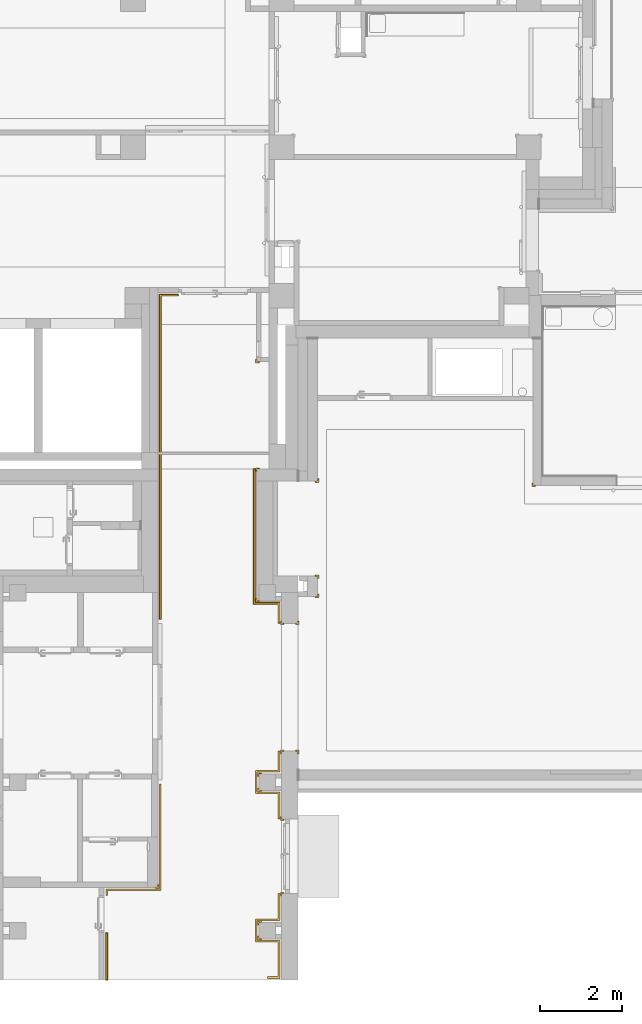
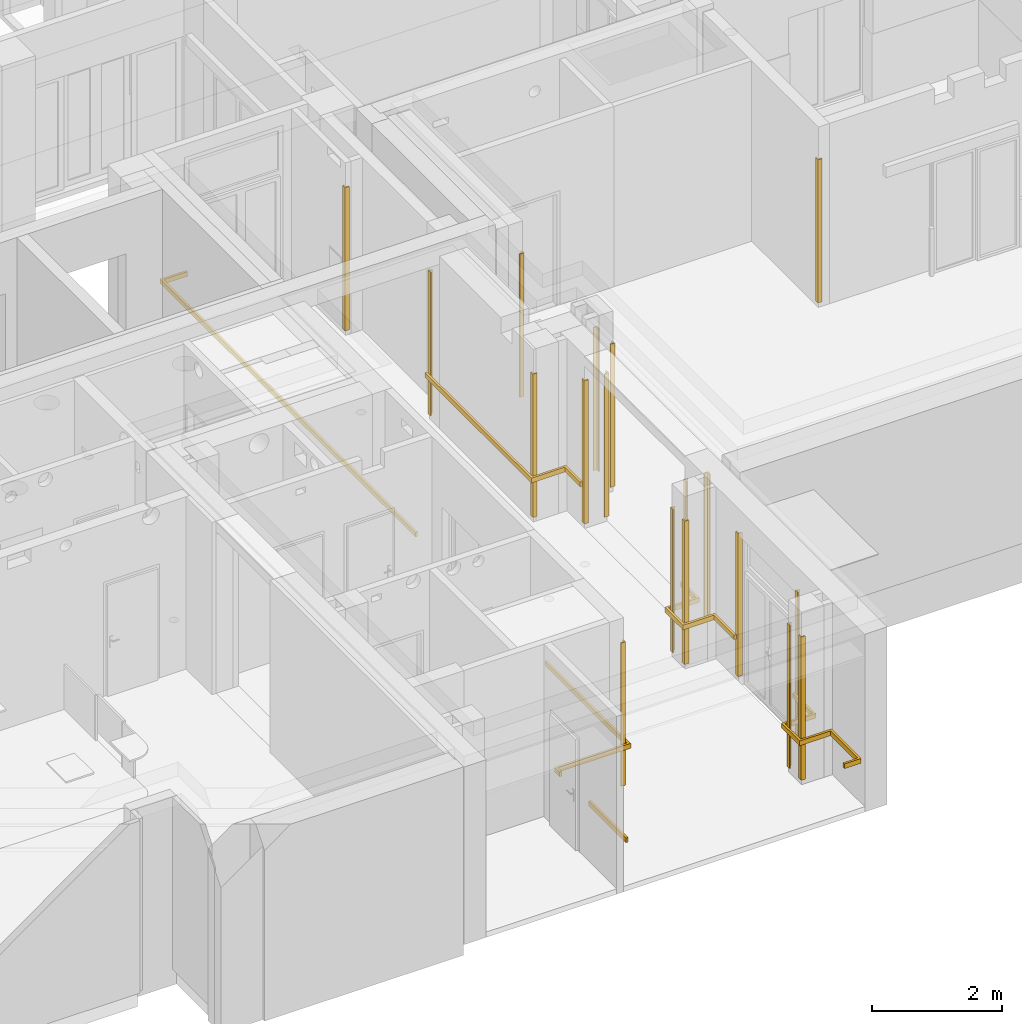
# One storey, part 132 of 140: 24 railings.
"""IFC4 building model written with IfcOpenShell, lengths in metres."""

from ifc_helpers import new_model, entity, si_unit, converted_unit, derived_unit, frame, origin, place, context, subcontext, project, spatial, faceted_brep, element, save


model = new_model("IFC4")

# Units and contexts
model_context = context("Model", 3, precision=1e-05, world=origin())
body_context = subcontext(model_context, "Body", "Model", "MODEL_VIEW")
ifc_project = project(units=[si_unit("LENGTHUNIT", "METRE"), si_unit("AREAUNIT", "SQUARE_METRE"), si_unit("VOLUMEUNIT", "CUBIC_METRE"), si_unit("MASSUNIT", "GRAM", prefix="KILO"), converted_unit("PLANEANGLEUNIT", "DEGREE", entity("IfcPlaneAngleMeasure", 0.0174532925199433), si_unit("PLANEANGLEUNIT", "RADIAN"), dimensions=[0, 0, 0, 0, 0, 0, 0]), derived_unit("THERMALTRANSMITTANCEUNIT", [(si_unit("POWERUNIT", "WATT"), 1), (si_unit("THERMODYNAMICTEMPERATUREUNIT", "KELVIN"), -1), (si_unit("LENGTHUNIT", "METRE"), -2)]), derived_unit("VOLUMETRICFLOWRATEUNIT", [(si_unit("LENGTHUNIT", "METRE"), 3), (converted_unit("TIMEUNIT", "hour", entity("IfcTimeMeasure", 3600.0), si_unit("TIMEUNIT", "SECOND"), dimensions=[0, 0, 1, 0, 0, 0, 0]), -1), (si_unit("LENGTHUNIT", "METRE"), -1)])], contexts=[model_context])

# Site, building, storey
site_placement = place(None, origin())
site = spatial("IfcSite", under=ifc_project, at=site_placement, Name="3. ASŘ", CompositionType="ELEMENT")
building_placement = place(site_placement, origin())
building = spatial("IfcBuilding", under=site, at=building_placement, Name="Pavilon C", CompositionType="ELEMENT")
storey_placement = place(building_placement, origin())
storey = spatial("IfcBuildingStorey", under=building, at=storey_placement, Name="Půdorys 1.NP", CompositionType="ELEMENT", Elevation=0.0)

# Railings
railing_1_placement = place(storey_placement, frame((50.03, -4.62, 0.1)))
element("IfcRailing", 1, at=railing_1_placement, inside=storey, Name="OCHRANA ROHŮ", PredefinedType="USERDEFINED", context=body_context, shape_type="Brep", body=[
    faceted_brep([(0.076, 0.0, 2.7), (0.076, 0.02, 2.7), (0.076, 0.02, 4.54747350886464e-16), (0.076, 0.0, 0.0), (0.0, 0.0, 2.7), (0.0, 0.076, 2.7), (0.02, 0.076, 2.7), (0.02, 0.02, 2.7), (0.02, 0.02, 4.54747350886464e-16), (0.02, 0.076, 4.54747350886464e-16), (0.0, 0.076, 0.0), (0.0, 0.0, 0.0)], [[[0, 1, 2, 3]], [[0, 4, 5, 6, 7, 1]], [[1, 7, 8, 2]], [[2, 8, 9, 10, 11, 3]], [[3, 11, 4, 0]], [[5, 10, 9, 6]], [[7, 6, 9, 8]], [[11, 10, 5, 4]]], orient=[[False], [False], [False], [False], [False], [False], [False], [False]]),
])
for number, where in (
    (2, (44.774, -4.52000000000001, 0.1)),
    (3, (44.774, -7.32000000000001, 0.1)),
    (4, (44.294, -7.97000000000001, 0.1)),
):
    element("IfcRailing", number, at=place(storey_placement, frame(where)), inside=storey, Name="OCHRANA ROHŮ", PredefinedType="USERDEFINED", context=body_context, shape_type="Brep", body=[
        faceted_brep([(0.076, 0.076, 2.7), (0.056, 0.076, 2.7), (0.056, 0.076, 4.54747350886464e-16), (0.076, 0.076, 0.0), (0.076, 0.0, 2.7), (0.0, 0.0, 2.7), (0.0, 0.02, 2.7), (0.056, 0.02, 2.7), (0.056, 0.02, 4.54747350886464e-16), (0.0, 0.02, 4.54747350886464e-16), (0.0, 0.0, 0.0), (0.076, 0.0, 0.0)], [[[0, 1, 2, 3]], [[0, 4, 5, 6, 7, 1]], [[1, 7, 8, 2]], [[2, 8, 9, 10, 11, 3]], [[3, 11, 4, 0]], [[5, 10, 9, 6]], [[7, 6, 9, 8]], [[11, 10, 5, 4]]], orient=[[False], [False], [False], [False], [False], [False], [False], [False]]),
    ])
railing_2_placement = place(storey_placement, frame((43.93, -7.97, 0.1)))
element("IfcRailing", 5, at=railing_2_placement, inside=storey, Name="OCHRANA ROHŮ", PredefinedType="USERDEFINED", context=body_context, shape_type="Brep", body=[
    faceted_brep([(0.076, 0.0, 2.7), (0.076, 0.02, 2.7), (0.076, 0.02, 4.54747350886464e-16), (0.076, 0.0, 0.0), (0.0, 0.0, 2.7), (0.0, 0.076, 2.7), (0.02, 0.076, 2.7), (0.02, 0.02, 2.7), (0.02, 0.02, 4.54747350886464e-16), (0.02, 0.076, 4.54747350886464e-16), (0.0, 0.076, 0.0), (0.0, 0.0, 0.0)], [[[0, 1, 2, 3]], [[0, 4, 5, 6, 7, 1]], [[1, 7, 8, 2]], [[2, 8, 9, 10, 11, 3]], [[3, 11, 4, 0]], [[5, 10, 9, 6]], [[7, 6, 9, 8]], [[11, 10, 5, 4]]], orient=[[False], [False], [False], [False], [False], [False], [False], [False]]),
])
railing_3_placement = place(storey_placement, frame((43.93, -11.106, 0.1)))
element("IfcRailing", 6, at=railing_3_placement, inside=storey, Name="OCHRANA ROHŮ", PredefinedType="USERDEFINED", context=body_context, shape_type="Brep", body=[
    faceted_brep([(0.0, 0.0, 2.7), (0.02, 0.0, 2.7), (0.02, 0.0, 4.54747350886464e-16), (0.0, 0.0, 0.0), (0.0, 0.076, 2.7), (0.076, 0.076, 2.7), (0.076, 0.056, 2.7), (0.02, 0.056, 2.7), (0.02, 0.056, 4.54747350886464e-16), (0.076, 0.056, 4.54747350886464e-16), (0.076, 0.076, 0.0), (0.0, 0.076, 0.0)], [[[0, 1, 2, 3]], [[0, 4, 5, 6, 7, 1]], [[1, 7, 8, 2]], [[2, 8, 9, 10, 11, 3]], [[3, 11, 4, 0]], [[5, 10, 9, 6]], [[7, 6, 9, 8]], [[11, 10, 5, 4]]], orient=[[False], [False], [False], [False], [False], [False], [False], [False]]),
])
for number, where in (
    (7, (44.294, -11.106, 0.1)),
    (8, (44.774, -6.856, 0.1)),
):
    element("IfcRailing", number, at=place(storey_placement, frame(where)), inside=storey, Name="OCHRANA ROHŮ", PredefinedType="USERDEFINED", context=body_context, shape_type="Brep", body=[
        faceted_brep([(0.0, 0.076, 2.7), (0.0, 0.056, 2.7), (0.0, 0.056, 4.54747350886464e-16), (0.0, 0.076, 0.0), (0.076, 0.076, 2.7), (0.076, 0.0, 2.7), (0.056, 0.0, 2.7), (0.056, 0.056, 2.7), (0.056, 0.056, 4.54747350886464e-16), (0.056, 0.0, 4.54747350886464e-16), (0.076, 0.0, 0.0), (0.076, 0.076, 0.0)], [[[0, 1, 2, 3]], [[0, 4, 5, 6, 7, 1]], [[1, 7, 8, 2]], [[2, 8, 9, 10, 11, 3]], [[3, 11, 4, 0]], [[5, 10, 9, 6]], [[7, 6, 9, 8]], [[11, 10, 5, 4]]], orient=[[False], [False], [False], [False], [False], [False], [False], [False]]),
    ])
railing_4_placement = place(storey_placement, frame((43.33, -7.42, 0.1)))
element("IfcRailing", 9, at=railing_4_placement, inside=storey, Name="OCHRANA ROHŮ", PredefinedType="USERDEFINED", context=body_context, shape_type="Brep", body=[
    faceted_brep([(0.076, 0.0, 2.7), (0.076, 0.02, 2.7), (0.076, 0.02, 4.54747350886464e-16), (0.076, 0.0, 0.0), (0.0, 0.0, 2.7), (0.0, 0.076, 2.7), (0.02, 0.076, 2.7), (0.02, 0.02, 2.7), (0.02, 0.02, 4.54747350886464e-16), (0.02, 0.076, 4.54747350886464e-16), (0.0, 0.076, 0.0), (0.0, 0.0, 0.0)], [[[0, 1, 2, 3]], [[0, 4, 5, 6, 7, 1]], [[1, 7, 8, 2]], [[2, 8, 9, 10, 11, 3]], [[3, 11, 4, 0]], [[5, 10, 9, 6]], [[7, 6, 9, 8]], [[11, 10, 5, 4]]], orient=[[False], [False], [False], [False], [False], [False], [False], [False]]),
])
for number, where in (
    (10, (43.33, -4.256, 0.1)),
    (11, (43.38, -11.656, 0.1)),
    (12, (43.38, -15.256, 0.1)),
):
    element("IfcRailing", number, at=place(storey_placement, frame(where)), inside=storey, Name="OCHRANA ROHŮ", PredefinedType="USERDEFINED", context=body_context, shape_type="Brep", body=[
        faceted_brep([(0.0, 0.0, 2.7), (0.02, 0.0, 2.7), (0.02, 0.0, 4.54747350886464e-16), (0.0, 0.0, 0.0), (0.0, 0.076, 2.7), (0.076, 0.076, 2.7), (0.076, 0.056, 2.7), (0.02, 0.056, 2.7), (0.02, 0.056, 4.54747350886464e-16), (0.076, 0.056, 4.54747350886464e-16), (0.076, 0.076, 0.0), (0.0, 0.076, 0.0)], [[[0, 1, 2, 3]], [[0, 4, 5, 6, 7, 1]], [[1, 7, 8, 2]], [[2, 8, 9, 10, 11, 3]], [[3, 11, 4, 0]], [[5, 10, 9, 6]], [[7, 6, 9, 8]], [[11, 10, 5, 4]]], orient=[[False], [False], [False], [False], [False], [False], [False], [False]]),
    ])
for number, where in (
    (13, (43.38, -15.62, 0.1)),
    (14, (43.38, -12.02, 0.1)),
):
    element("IfcRailing", number, at=place(storey_placement, frame(where)), inside=storey, Name="OCHRANA ROHŮ", PredefinedType="USERDEFINED", context=body_context, shape_type="Brep", body=[
        faceted_brep([(0.076, 0.0, 2.7), (0.076, 0.02, 2.7), (0.076, 0.02, 4.54747350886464e-16), (0.076, 0.0, 0.0), (0.0, 0.0, 2.7), (0.0, 0.076, 2.7), (0.02, 0.076, 2.7), (0.02, 0.02, 2.7), (0.02, 0.02, 4.54747350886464e-16), (0.02, 0.076, 4.54747350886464e-16), (0.0, 0.076, 0.0), (0.0, 0.0, 0.0)], [[[0, 1, 2, 3]], [[0, 4, 5, 6, 7, 1]], [[1, 7, 8, 2]], [[2, 8, 9, 10, 11, 3]], [[3, 11, 4, 0]], [[5, 10, 9, 6]], [[7, 6, 9, 8]], [[11, 10, 5, 4]]], orient=[[False], [False], [False], [False], [False], [False], [False], [False]]),
    ])
railing_5_placement = place(storey_placement, frame((40.894, -14.3700000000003, 0.1)))
element("IfcRailing", 15, at=railing_5_placement, inside=storey, Name="OCHRANA ROHŮ", PredefinedType="USERDEFINED", context=body_context, shape_type="Brep", body=[
    faceted_brep([(0.076, 0.076, 2.7), (0.056, 0.076, 2.7), (0.056, 0.076, 4.54747350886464e-16), (0.076, 0.076, 0.0), (0.076, 0.0, 2.7), (0.0, 0.0, 2.7), (0.0, 0.02, 2.7), (0.056, 0.02, 2.7), (0.056, 0.02, 4.54747350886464e-16), (0.0, 0.02, 4.54747350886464e-16), (0.0, 0.0, 0.0), (0.076, 0.0, 0.0)], [[[0, 1, 2, 3]], [[0, 4, 5, 6, 7, 1]], [[1, 7, 8, 2]], [[2, 8, 9, 10, 11, 3]], [[3, 11, 4, 0]], [[5, 10, 9, 6]], [[7, 6, 9, 8]], [[11, 10, 5, 4]]], orient=[[False], [False], [False], [False], [False], [False], [False], [False]]),
])
railing_6_placement = place(storey_placement, frame((40.99, -7.85000000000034, 0.81)))
element("IfcRailing", 16, at=railing_6_placement, inside=storey, Name="NÁRAZOVÉ MADLO", PredefinedType="USERDEFINED", context=body_context, shape_type="Brep", body=[
    faceted_brep([(0.46, 7.84500000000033, 0.09), (0.46, 7.88500000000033, 0.09), (0.46, 7.88500000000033, 0.0), (0.46, 7.84500000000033, 0.0), (0.04, 7.84500000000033, 0.09), (0.04, 0.0, 0.09), (0.0, 0.0, 0.09), (0.0, 7.88500000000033, 0.09), (0.0, 7.88500000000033, 0.0), (0.0, 0.0, 0.0), (0.04, 0.0, 0.0), (0.04, 7.84500000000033, 0.0)], [[[0, 1, 2, 3]], [[0, 4, 5, 6, 7, 1]], [[1, 7, 8, 2]], [[2, 8, 9, 10, 11, 3]], [[3, 11, 4, 0]], [[5, 10, 9, 6]], [[7, 6, 9, 8]], [[11, 10, 5, 4]]], orient=[[False], [False], [False], [False], [False], [False], [False], [False]]),
])
railing_7_placement = place(storey_placement, frame((39.69, -14.5500000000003, 0.81)))
element("IfcRailing", 17, at=railing_7_placement, inside=storey, Name="NÁRAZOVÉ MADLO", PredefinedType="USERDEFINED", context=body_context, shape_type="Brep", body=[
    faceted_brep([(1.34, 2.7, 0.09), (1.3, 2.7, 0.09), (1.3, 2.7, 0.0), (1.34, 2.7, 0.0), (1.34, 0.119999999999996, 0.09), (0.04, 0.119999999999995, 0.09), (0.04, -1.81898940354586e-15, 0.09), (0.0, -1.81898940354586e-15, 0.09), (0.0, 0.159999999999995, 0.09), (1.3, 0.159999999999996, 0.09), (1.3, 0.159999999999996, 0.0), (0.0, 0.159999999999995, 0.0), (0.0, -1.81898940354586e-15, 0.0), (0.04, -1.81898940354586e-15, 0.0), (0.04, 0.119999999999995, 0.0), (1.34, 0.119999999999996, 0.0)], [[[0, 1, 2, 3]], [[0, 4, 5, 6, 7, 8, 9, 1]], [[1, 9, 10, 2]], [[2, 10, 11, 12, 13, 14, 15, 3]], [[3, 15, 4, 0]], [[9, 8, 11, 10]], [[15, 14, 5, 4]], [[6, 13, 12, 7]], [[8, 7, 12, 11]], [[14, 13, 6, 5]]], orient=[[False], [False], [False], [False], [False], [False], [False], [False], [False], [False]]),
])
railing_8_placement = place(storey_placement, frame((39.69, -16.6, 0.81)))
element("IfcRailing", 18, at=railing_8_placement, inside=storey, Name="NÁRAZOVÉ MADLO", PredefinedType="USERDEFINED", context=body_context, shape_type="Brep", body=[
    faceted_brep([(0.04, 1.14999999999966, 0.09), (0.0, 1.14999999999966, 0.09), (0.0, 1.14999999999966, 0.0), (0.04, 1.14999999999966, 0.0), (0.04, 0.0, 0.09), (0.04, 0.0, 0.0), (0.0, 0.0, 0.0), (0.0, 0.0, 0.09)], [[[0, 1, 2, 3]], [[4, 5, 6, 7]], [[0, 4, 7, 1]], [[1, 7, 6, 2]], [[2, 6, 5, 3]], [[3, 5, 4, 0]]], orient=[[False], [False], [False], [False], [False], [False]]),
])
railing_9_placement = place(storey_placement, frame((43.93, -14.556, 0.1)))
element("IfcRailing", 19, at=railing_9_placement, inside=storey, Name="OCHRANA ROHŮ", PredefinedType="USERDEFINED", context=body_context, shape_type="Brep", body=[
    faceted_brep([(0.0, 0.0, 2.7), (0.02, 0.0, 2.7), (0.02, 0.0, 4.54747350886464e-16), (0.0, 0.0, 0.0), (0.0, 0.076, 2.7), (0.076, 0.076, 2.7), (0.076, 0.056, 2.7), (0.02, 0.056, 2.7), (0.02, 0.056, 4.54747350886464e-16), (0.076, 0.056, 4.54747350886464e-16), (0.076, 0.076, 0.0), (0.0, 0.076, 0.0)], [[[0, 1, 2, 3]], [[0, 4, 5, 6, 7, 1]], [[1, 7, 8, 2]], [[2, 8, 9, 10, 11, 3]], [[3, 11, 4, 0]], [[5, 10, 9, 6]], [[7, 6, 9, 8]], [[11, 10, 5, 4]]], orient=[[False], [False], [False], [False], [False], [False], [False], [False]]),
])
railing_10_placement = place(storey_placement, frame((43.93, -12.72, 0.1)))
element("IfcRailing", 20, at=railing_10_placement, inside=storey, Name="OCHRANA ROHŮ", PredefinedType="USERDEFINED", context=body_context, shape_type="Brep", body=[
    faceted_brep([(0.076, 0.0, 2.7), (0.076, 0.02, 2.7), (0.076, 0.02, 4.54747350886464e-16), (0.076, 0.0, 0.0), (0.0, 0.0, 2.7), (0.0, 0.076, 2.7), (0.02, 0.076, 2.7), (0.02, 0.02, 2.7), (0.02, 0.02, 4.54747350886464e-16), (0.02, 0.076, 4.54747350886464e-16), (0.0, 0.076, 0.0), (0.0, 0.0, 0.0)], [[[0, 1, 2, 3]], [[0, 4, 5, 6, 7, 1]], [[1, 7, 8, 2]], [[2, 8, 9, 10, 11, 3]], [[3, 11, 4, 0]], [[5, 10, 9, 6]], [[7, 6, 9, 8]], [[11, 10, 5, 4]]], orient=[[False], [False], [False], [False], [False], [False], [False], [False]]),
])
railing_11_placement = place(storey_placement, frame((43.32, -16.56, 0.81)))
element("IfcRailing", 21, at=railing_11_placement, inside=storey, Name="NÁRAZOVÉ MADLO", PredefinedType="USERDEFINED", context=body_context, shape_type="Brep", body=[
    faceted_brep([(0.29, 0.04, 0.09), (0.29, 0.0, 0.09), (0.29, 0.0, 0.0), (0.29, 0.04, 0.0), (0.55, 0.04, 0.09), (0.55, 0.880000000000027, 0.09), (0.0, 0.880000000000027, 0.09), (0.0, 1.44000000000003, 0.09), (0.55, 1.44000000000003, 0.09), (0.55, 2.06000000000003, 0.09), (0.59, 2.06000000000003, 0.09), (0.59, 1.40000000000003, 0.09), (0.04, 1.40000000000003, 0.09), (0.04, 0.920000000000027, 0.09), (0.59, 0.920000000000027, 0.09), (0.59, 0.0, 0.09), (0.59, 0.0, 0.0), (0.59, 0.920000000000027, 0.0), (0.04, 0.920000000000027, 0.0), (0.04, 1.40000000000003, 0.0), (0.59, 1.40000000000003, 0.0), (0.59, 2.06000000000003, 0.0), (0.55, 2.06000000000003, 0.0), (0.55, 1.44000000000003, 0.0), (0.0, 1.44000000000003, 0.0), (0.0, 0.880000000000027, 0.0), (0.55, 0.880000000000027, 0.0), (0.55, 0.04, 0.0)], [[[0, 1, 2, 3]], [[0, 4, 5, 6, 7, 8, 9, 10, 11, 12, 13, 14, 15, 1]], [[1, 15, 16, 2]], [[2, 16, 17, 18, 19, 20, 21, 22, 23, 24, 25, 26, 27, 3]], [[3, 27, 4, 0]], [[15, 14, 17, 16]], [[27, 26, 5, 4]], [[14, 13, 18, 17]], [[26, 25, 6, 5]], [[13, 12, 19, 18]], [[25, 24, 7, 6]], [[12, 11, 20, 19]], [[24, 23, 8, 7]], [[9, 22, 21, 10]], [[11, 10, 21, 20]], [[23, 22, 9, 8]]], orient=[[False], [False], [False], [False], [False], [False], [False], [False], [False], [False], [False], [False], [False], [False], [False], [False]]),
])
railing_12_placement = place(storey_placement, frame((43.32, -12.7, 0.81)))
element("IfcRailing", 22, at=railing_12_placement, inside=storey, Name="NÁRAZOVÉ MADLO", PredefinedType="USERDEFINED", context=body_context, shape_type="Brep", body=[
    faceted_brep([(0.55, 0.0, 0.09), (0.59, 0.0, 0.09), (0.59, 0.0, 0.0), (0.55, 0.0, 0.0), (0.55, 0.619999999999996, 0.09), (0.0, 0.619999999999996, 0.09), (0.0, 1.18, 0.09), (0.55, 1.18, 0.09), (0.55, 1.65, 0.09), (0.59, 1.65, 0.09), (0.59, 1.14, 0.09), (0.04, 1.14, 0.09), (0.04, 0.659999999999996, 0.09), (0.59, 0.659999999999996, 0.09), (0.59, 0.659999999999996, 0.0), (0.04, 0.659999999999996, 0.0), (0.04, 1.14, 0.0), (0.59, 1.14, 0.0), (0.59, 1.65, 0.0), (0.55, 1.65, 0.0), (0.55, 1.18, 0.0), (0.0, 1.18, 0.0), (0.0, 0.619999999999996, 0.0), (0.55, 0.619999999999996, 0.0)], [[[0, 1, 2, 3]], [[0, 4, 5, 6, 7, 8, 9, 10, 11, 12, 13, 1]], [[1, 13, 14, 2]], [[2, 14, 15, 16, 17, 18, 19, 20, 21, 22, 23, 3]], [[3, 23, 4, 0]], [[13, 12, 15, 14]], [[23, 22, 5, 4]], [[12, 11, 16, 15]], [[22, 21, 6, 5]], [[11, 10, 17, 16]], [[21, 20, 7, 6]], [[8, 19, 18, 9]], [[10, 9, 18, 17]], [[20, 19, 8, 7]]], orient=[[False], [False], [False], [False], [False], [False], [False], [False], [False], [False], [False], [False], [False], [False]]),
])
railing_13_placement = place(storey_placement, frame((43.27, -7.95, 0.81)))
element("IfcRailing", 23, at=railing_13_placement, inside=storey, Name="NÁRAZOVÉ MADLO", PredefinedType="USERDEFINED", context=body_context, shape_type="Brep", body=[
    faceted_brep([(0.6, 0.0, 0.09), (0.64, 0.0, 0.09), (0.64, 0.0, 0.0), (0.6, 0.0, 0.0), (0.6, 0.469999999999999, 0.09), (0.0, 0.469999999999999, 0.09), (0.0, 3.75, 0.09), (0.04, 3.75, 0.09), (0.04, 0.509999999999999, 0.09), (0.64, 0.509999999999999, 0.09), (0.64, 0.509999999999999, 0.0), (0.04, 0.509999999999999, 0.0), (0.04, 3.75, 0.0), (0.0, 3.75, 0.0), (0.0, 0.469999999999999, 0.0), (0.6, 0.469999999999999, 0.0)], [[[0, 1, 2, 3]], [[0, 4, 5, 6, 7, 8, 9, 1]], [[1, 9, 10, 2]], [[2, 10, 11, 12, 13, 14, 15, 3]], [[3, 15, 4, 0]], [[9, 8, 11, 10]], [[15, 14, 5, 4]], [[6, 13, 12, 7]], [[8, 7, 12, 11]], [[14, 13, 6, 5]]], orient=[[False], [False], [False], [False], [False], [False], [False], [False], [False], [False]]),
])
railing_14_placement = place(storey_placement, frame((43.33, -1.62000000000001, 0.1)))
element("IfcRailing", 24, at=railing_14_placement, inside=storey, Name="OCHRANA ROHŮ", PredefinedType="USERDEFINED", context=body_context, shape_type="Brep", body=[
    faceted_brep([(0.076, 0.0, 2.7), (0.076, 0.02, 2.7), (0.076, 0.02, 4.54747350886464e-16), (0.076, 0.0, 0.0), (0.0, 0.0, 2.7), (0.0, 0.076, 2.7), (0.02, 0.076, 2.7), (0.02, 0.02, 2.7), (0.02, 0.02, 4.54747350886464e-16), (0.02, 0.076, 4.54747350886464e-16), (0.0, 0.076, 0.0), (0.0, 0.0, 0.0)], [[[0, 1, 2, 3]], [[0, 4, 5, 6, 7, 1]], [[1, 7, 8, 2]], [[2, 8, 9, 10, 11, 3]], [[3, 11, 4, 0]], [[5, 10, 9, 6]], [[7, 6, 9, 8]], [[11, 10, 5, 4]]], orient=[[False], [False], [False], [False], [False], [False], [False], [False]]),
])

save(model, "model.ifc")
